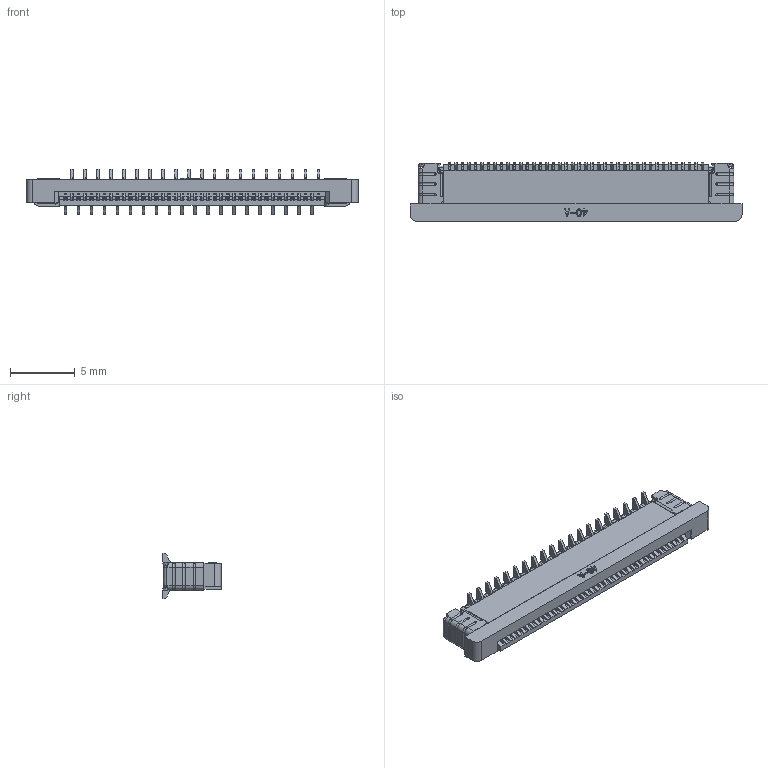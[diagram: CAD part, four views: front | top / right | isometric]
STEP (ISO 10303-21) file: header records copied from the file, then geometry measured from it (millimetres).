
FILE_DESCRIPTION((''),'2;1');
FILE_NAME('FVD0545-40_ASM','2026-07-24T',('PMT2 SFT'),(''),'PRO/ENGINEER BY PARAMETRIC TECHNOLOGY CORPORATION, 2011490','PRO/ENGINEER BY PARAMETRIC TECHNOLOGY CORPORATION, 2011490','');
FILE_SCHEMA(('CONFIG_CONTROL_DESIGN'));
Products named in the file (46): MANIFOLD_SOLID_BREP_366; MANIFOLD_SOLID_BREP_367; MANIFOLD_SOLID_BREP_368; MANIFOLD_SOLID_BREP_369; MANIFOLD_SOLID_BREP_370; MANIFOLD_SOLID_BREP_371; MANIFOLD_SOLID_BREP_372; MANIFOLD_SOLID_BREP_373; MANIFOLD_SOLID_BREP_374; MANIFOLD_SOLID_BREP_375; MANIFOLD_SOLID_BREP_376; MANIFOLD_SOLID_BREP_377; MANIFOLD_SOLID_BREP_378; MANIFOLD_SOLID_BREP_379; MANIFOLD_SOLID_BREP_380; MANIFOLD_SOLID_BREP_381; MANIFOLD_SOLID_BREP_382; MANIFOLD_SOLID_BREP_383; MANIFOLD_SOLID_BREP_384; MANIFOLD_SOLID_BREP_385; MANIFOLD_SOLID_BREP_386; MANIFOLD_SOLID_BREP_387; MANIFOLD_SOLID_BREP_388; MANIFOLD_SOLID_BREP_389; MANIFOLD_SOLID_BREP_390; MANIFOLD_SOLID_BREP_391; MANIFOLD_SOLID_BREP_392; MANIFOLD_SOLID_BREP_393; MANIFOLD_SOLID_BREP_394; MANIFOLD_SOLID_BREP_395; MANIFOLD_SOLID_BREP_396; MANIFOLD_SOLID_BREP_397; MANIFOLD_SOLID_BREP_398; MANIFOLD_SOLID_BREP_399; MANIFOLD_SOLID_BREP_400; MANIFOLD_SOLID_BREP_401; MANIFOLD_SOLID_BREP_402; MANIFOLD_SOLID_BREP_403; MANIFOLD_SOLID_BREP_404; MANIFOLD_SOLID_BREP_405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
Assembly tree (45 placements, depth 3):
  FVD0545-40_ASM
    0_5K-A-PB_ASM
      MANIFOLD_SOLID_BREP_366
      MANIFOLD_SOLID_BREP_367
      MANIFOLD_SOLID_BREP_368
      MANIFOLD_SOLID_BREP_369
      MANIFOLD_SOLID_BREP_370
      MANIFOLD_SOLID_BREP_371
      MANIFOLD_SOLID_BREP_372
      MANIFOLD_SOLID_BREP_373
      MANIFOLD_SOLID_BREP_374
      MANIFOLD_SOLID_BREP_375
      MANIFOLD_SOLID_BREP_376
      MANIFOLD_SOLID_BREP_377
      MANIFOLD_SOLID_BREP_378
      MANIFOLD_SOLID_BREP_379
      MANIFOLD_SOLID_BREP_380
      MANIFOLD_SOLID_BREP_381
      MANIFOLD_SOLID_BREP_382
      MANIFOLD_SOLID_BREP_383
      MANIFOLD_SOLID_BREP_384
      MANIFOLD_SOLID_BREP_385
      MANIFOLD_SOLID_BREP_386
      MANIFOLD_SOLID_BREP_387
      MANIFOLD_SOLID_BREP_388
      MANIFOLD_SOLID_BREP_389
      MANIFOLD_SOLID_BREP_390
      MANIFOLD_SOLID_BREP_391
      MANIFOLD_SOLID_BREP_392
      MANIFOLD_SOLID_BREP_393
      MANIFOLD_SOLID_BREP_394
      MANIFOLD_SOLID_BREP_395
      MANIFOLD_SOLID_BREP_396
      MANIFOLD_SOLID_BREP_397
      MANIFOLD_SOLID_BREP_398
      MANIFOLD_SOLID_BREP_399
      MANIFOLD_SOLID_BREP_400
      MANIFOLD_SOLID_BREP_401
      MANIFOLD_SOLID_BREP_402
      MANIFOLD_SOLID_BREP_403
      MANIFOLD_SOLID_BREP_404
      MANIFOLD_SOLID_BREP_405
      MANIFOLD_SOLID_BREP_406
      MANIFOLD_SOLID_BREP_407
      MANIFOLD_SOLID_BREP_408
      MANIFOLD_SOLID_BREP_409
Bounding box: 25.6 x 4.5 x 3.52 mm (x, y, z)
Volume: 172.1 mm3; surface area: 1208.7 mm2
Topology: 44 solids, 44 shells, 4126 faces, 12624 edges, 8435 vertices
Faces by surface type: plane 2415, cylinder 1671, sphere 12, torus 12, bspline 12, extrusion 4
Entity records: 143928 total; most frequent: CARTESIAN_POINT 26302, ORIENTED_EDGE 25248, DIRECTION 24565, EDGE_CURVE 12624, VECTOR 9069, LINE 9065, VERTEX_POINT 8435, AXIS2_PLACEMENT_3D 7748
